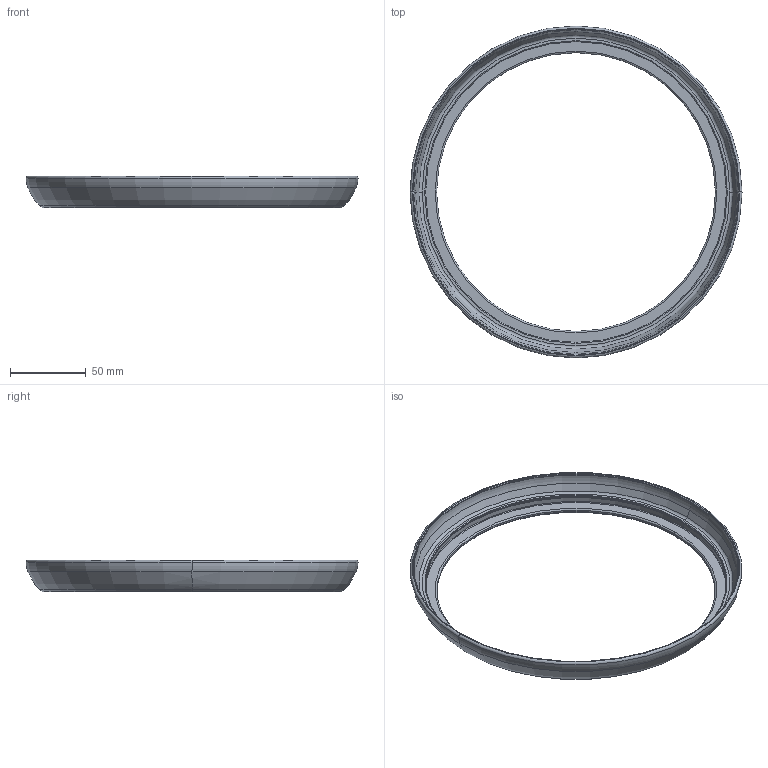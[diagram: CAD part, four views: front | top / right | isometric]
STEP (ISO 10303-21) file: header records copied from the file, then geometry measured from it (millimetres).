
FILE_DESCRIPTION((''),'2;1');
FILE_NAME('FRISBEE_AUSSENRING','2026-04-08T19:29:40',('m.kloibhofer'),(''),'CREO PARAMETRIC BY PTC INC, 2025093','CREO PARAMETRIC BY PTC INC, 2025093','');
FILE_SCHEMA(('AUTOMOTIVE_DESIGN { 1 0 10303 214 1 1 1 1 }'));
Length unit declared in the file: millimetre
Products named in the file (1): FRISBEE_AUSSENRING
Bounding box: 219.18 x 219.18 x 21 mm (x, y, z)
Volume: 51720.9 mm3; surface area: 41941.6 mm2
Topology: 1 solids, 1 shells, 44 faces, 88 edges, 48 vertices
Faces by surface type: torus 24, cone 6, cylinder 6, plane 4, revolution 4
Entity records: 1277 total; most frequent: DIRECTION 240, CARTESIAN_POINT 228, ORIENTED_EDGE 176, AXIS2_PLACEMENT_3D 112, EDGE_CURVE 88, CIRCLE 72, VERTEX_POINT 48, EDGE_LOOP 48
